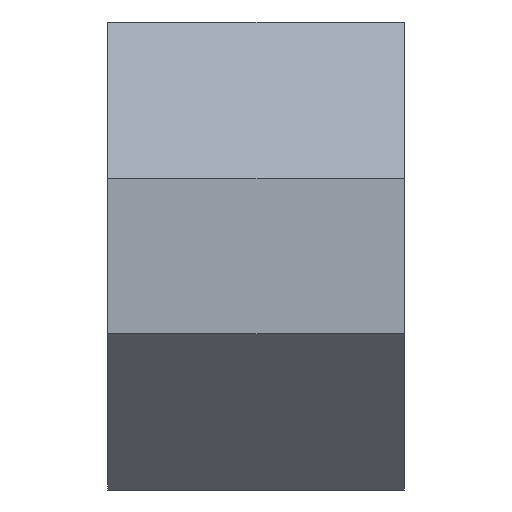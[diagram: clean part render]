
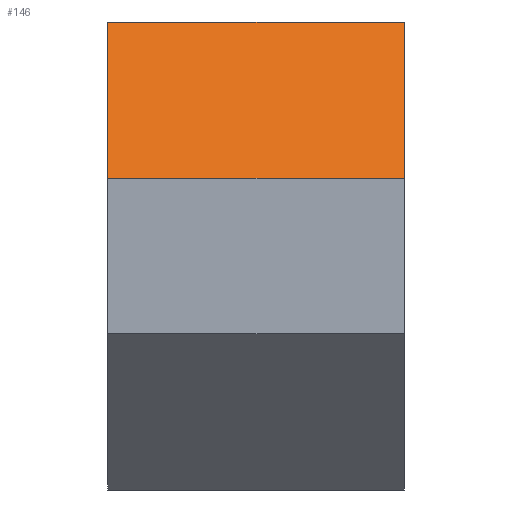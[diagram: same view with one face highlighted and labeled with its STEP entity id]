
A CAD part, left-side view. The second image highlights one B-rep face of the part: STEP entity #146.
In plain terms, the highlighted planar face has unit normal (-0.707, 0, 0.707).
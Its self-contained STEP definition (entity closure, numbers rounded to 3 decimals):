
#16 = ORIENTED_EDGE ( 'NONE', *, *, #479, .F. ) ;
#26 = LINE ( 'NONE', #115, #359 ) ;
#38 = ORIENTED_EDGE ( 'NONE', *, *, #387, .F. ) ;
#57 = DIRECTION ( 'NONE',  ( 0.707, 0., 0.707 ) ) ;
#64 = VERTEX_POINT ( 'NONE', #507 ) ;
#110 = DIRECTION ( 'NONE',  ( 0.707, 0., -0.707 ) ) ;
#115 = CARTESIAN_POINT ( 'NONE',  ( -51.25, 9.5, 51.25 ) ) ;
#146 = ADVANCED_FACE ( 'NONE', ( #571 ), #511, .F. ) ;
#157 = CARTESIAN_POINT ( 'NONE',  ( -95., 9.5, 7.5 ) ) ;
#187 = VECTOR ( 'NONE', #572, 1000. ) ;
#234 = VERTEX_POINT ( 'NONE', #670 ) ;
#262 = VERTEX_POINT ( 'NONE', #599 ) ;
#271 = ORIENTED_EDGE ( 'NONE', *, *, #496, .F. ) ;
#359 = VECTOR ( 'NONE', #57, 1000. ) ;
#381 = CARTESIAN_POINT ( 'NONE',  ( -95., 0., 7.5 ) ) ;
#387 = EDGE_CURVE ( 'NONE', #654, #64, #429, .T. ) ;
#429 = LINE ( 'NONE', #513, #510 ) ;
#446 = EDGE_CURVE ( 'NONE', #234, #654, #632, .T. ) ;
#462 = DIRECTION ( 'NONE',  ( -0.707, 0., -0.707 ) ) ;
#475 = DIRECTION ( 'NONE',  ( 0., -1., 0. ) ) ;
#479 = EDGE_CURVE ( 'NONE', #64, #262, #579, .T. ) ;
#496 = EDGE_CURVE ( 'NONE', #262, #234, #26, .T. ) ;
#507 = CARTESIAN_POINT ( 'NONE',  ( -100., 0., 2.5 ) ) ;
#510 = VECTOR ( 'NONE', #462, 1000. ) ;
#511 = PLANE ( 'NONE',  #569 ) ;
#513 = CARTESIAN_POINT ( 'NONE',  ( -95., 0., 7.5 ) ) ;
#530 = ORIENTED_EDGE ( 'NONE', *, *, #446, .F. ) ;
#558 = CARTESIAN_POINT ( 'NONE',  ( -95., 9.5, 7.5 ) ) ;
#559 = VECTOR ( 'NONE', #677, 1000. ) ;
#569 = AXIS2_PLACEMENT_3D ( 'NONE', #558, #110, #475 ) ;
#571 = FACE_OUTER_BOUND ( 'NONE', #596, .T. ) ;
#572 = DIRECTION ( 'NONE',  ( 0., -1., 0. ) ) ;
#579 = LINE ( 'NONE', #619, #559 ) ;
#596 = EDGE_LOOP ( 'NONE', ( #271, #16, #38, #530 ) ) ;
#599 = CARTESIAN_POINT ( 'NONE',  ( -100., 9.5, 2.5 ) ) ;
#619 = CARTESIAN_POINT ( 'NONE',  ( -100., 9.5, 2.5 ) ) ;
#632 = LINE ( 'NONE', #157, #187 ) ;
#654 = VERTEX_POINT ( 'NONE', #381 ) ;
#670 = CARTESIAN_POINT ( 'NONE',  ( -95., 9.5, 7.5 ) ) ;
#677 = DIRECTION ( 'NONE',  ( 0., 1., 0. ) ) ;
